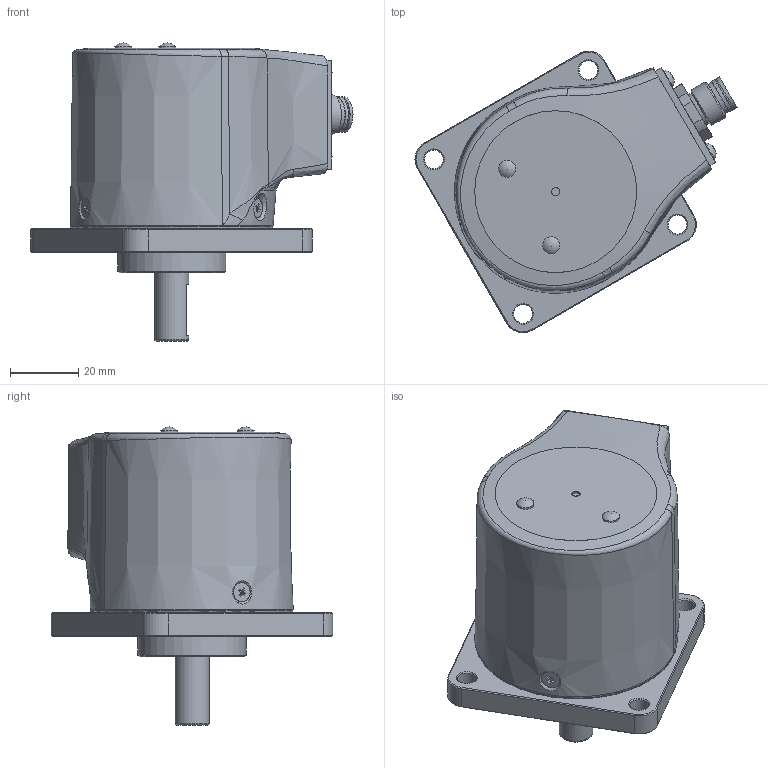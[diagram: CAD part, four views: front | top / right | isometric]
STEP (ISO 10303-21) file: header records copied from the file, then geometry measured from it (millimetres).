
FILE_DESCRIPTION(/* description */ ('Unknown'),/* implementation_level */ '2;1');
FILE_NAME(/* name */ 'EAL_EAML_63_D_M12R',/* time_stamp */ '2018-04-20T11:53:47+02:00',/* author */ ('Unknown'),/* organization */ ('Unknown'),/* preprocessor_version */ 'ST-DEVELOPER v16.7',/* originating_system */ 'DEX',/* authorisation */ $);
FILE_SCHEMA (('AUTOMOTIVE_DESIGN {1 0 10303 214 3 1 1}'));
Length unit declared in the file: millimetre
Products named in the file (1): EAL_EAML_63_D_M12R
Bounding box: 94.6 x 82.69 x 87.54 mm (x, y, z)
Volume: 94235.5 mm3; surface area: 49155 mm2
Topology: 2 solids, 21 shells, 536 faces, 1265 edges, 830 vertices
Faces by surface type: plane 264, cylinder 137, cone 87, torus 31, bspline 17
Full cylindrical faces by diameter (mm): 0.9 x16, 1.5 x8, 2.013 x7, 2.459 x10, 2.5 x1, 3 x6, 3.4 x3, 4.98 x1, 5 x3, 5.5 x4, 5.6 x3, 6 x5, 7.98 x1, 8 x7, 8.25 x1, 8.772 x1, 10 x5, 10.4 x4, 12 x1, 12.4 x1, 13 x1, 14.53 x1, 15.2 x1, 22 x3, 22.1 x2, 22.5 x1, 27 x1, 29 x2, 31.75 x1, 51.2 x1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
Entity records: 18643 total; most frequent: CARTESIAN_POINT 4207, DIRECTION 2200, ORIENTED_EDGE 1850, AXIS2_PLACEMENT_3D 931, EDGE_CURVE 925, FACE_BOUND 856, EDGE_LOOP 836, VERTEX_POINT 721
